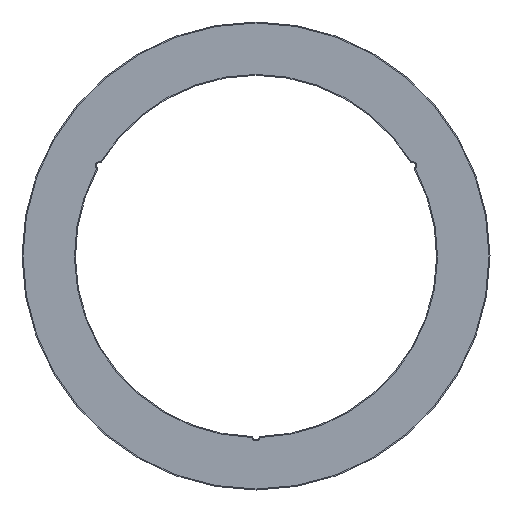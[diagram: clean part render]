
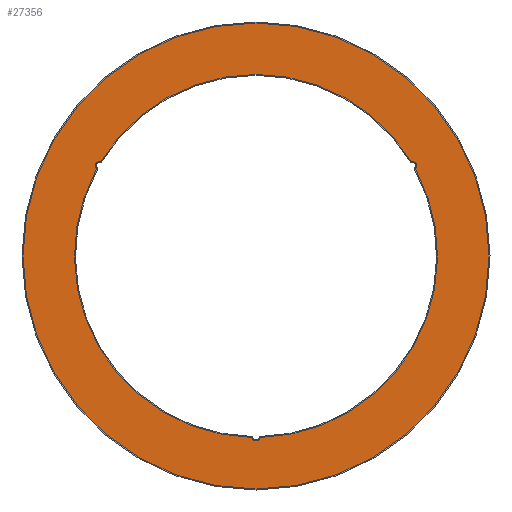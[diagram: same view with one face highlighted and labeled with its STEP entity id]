
A CAD part, front view. The second image highlights one B-rep face of the part: STEP entity #27356.
In plain terms, the highlighted planar face has unit normal (0, -1, 0).
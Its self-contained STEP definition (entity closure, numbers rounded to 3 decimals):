
#921 = CIRCLE ( 'NONE', #52356, 0.65 ) ;
#1262 = DIRECTION ( 'NONE',  ( 0., -1., 0. ) ) ;
#1302 = CARTESIAN_POINT ( 'NONE',  ( -24.249, -0.035, 14. ) ) ;
#2057 = DIRECTION ( 'NONE',  ( 0., 0., -1. ) ) ;
#2355 = VERTEX_POINT ( 'NONE', #40181 ) ;
#3402 = CARTESIAN_POINT ( 'NONE',  ( 0., -0.035, 36.125 ) ) ;
#3644 = CARTESIAN_POINT ( 'NONE',  ( 24.249, -0.035, 14. ) ) ;
#7521 = VERTEX_POINT ( 'NONE', #36827 ) ;
#8434 = CARTESIAN_POINT ( 'NONE',  ( 24.055, -0.035, 14.621 ) ) ;
#9013 = DIRECTION ( 'NONE',  ( 0., -1., 0. ) ) ;
#9279 = CARTESIAN_POINT ( 'NONE',  ( 0., -0.035, 0. ) ) ;
#10319 = PLANE ( 'NONE',  #65658 ) ;
#10971 = DIRECTION ( 'NONE',  ( 0., 0., -1. ) ) ;
#11717 = ORIENTED_EDGE ( 'NONE', *, *, #57239, .F. ) ;
#12152 = CARTESIAN_POINT ( 'NONE',  ( 24.689, -0.035, 13.522 ) ) ;
#12451 = CARTESIAN_POINT ( 'NONE',  ( -24.689, -0.035, 13.522 ) ) ;
#12669 = CARTESIAN_POINT ( 'NONE',  ( 0.634, -0.035, -28.143 ) ) ;
#13413 = AXIS2_PLACEMENT_3D ( 'NONE', #27339, #26565, #58292 ) ;
#14638 = DIRECTION ( 'NONE',  ( 0., 0., -1. ) ) ;
#15609 = ORIENTED_EDGE ( 'NONE', *, *, #63971, .F. ) ;
#16294 = CIRCLE ( 'NONE', #58597, 0.65 ) ;
#16306 = AXIS2_PLACEMENT_3D ( 'NONE', #53130, #22232, #28170 ) ;
#18096 = VERTEX_POINT ( 'NONE', #8434 ) ;
#19367 = DIRECTION ( 'NONE',  ( 0., -1., 0. ) ) ;
#19880 = DIRECTION ( 'NONE',  ( 0., 0., -1. ) ) ;
#20565 = DIRECTION ( 'NONE',  ( 0., -1., 0. ) ) ;
#22007 = EDGE_LOOP ( 'NONE', ( #78755, #51140 ) ) ;
#22046 = CIRCLE ( 'NONE', #71016, 0.65 ) ;
#22232 = DIRECTION ( 'NONE',  ( 0., -1., 0. ) ) ;
#22757 = DIRECTION ( 'NONE',  ( 0., -1., 0. ) ) ;
#23298 = ORIENTED_EDGE ( 'NONE', *, *, #43299, .F. ) ;
#23505 = CARTESIAN_POINT ( 'NONE',  ( 0., -0.035, 0. ) ) ;
#24903 = VERTEX_POINT ( 'NONE', #75636 ) ;
#24960 = ORIENTED_EDGE ( 'NONE', *, *, #34827, .F. ) ;
#26565 = DIRECTION ( 'NONE',  ( 0., -1., 0. ) ) ;
#27214 = FACE_BOUND ( 'NONE', #32424, .T. ) ;
#27339 = CARTESIAN_POINT ( 'NONE',  ( 24.249, -0.035, 14. ) ) ;
#27356 = ADVANCED_FACE ( 'NONE', ( #49657, #27214 ), #10319, .T. ) ;
#28170 = DIRECTION ( 'NONE',  ( 0., 0., -1. ) ) ;
#28173 = DIRECTION ( 'NONE',  ( 0., 0., -1. ) ) ;
#28656 = DIRECTION ( 'NONE',  ( 0., -1., 0. ) ) ;
#28671 = EDGE_CURVE ( 'NONE', #7521, #74434, #22046, .T. ) ;
#29184 = EDGE_CURVE ( 'NONE', #62393, #18096, #37247, .T. ) ;
#29655 = VERTEX_POINT ( 'NONE', #12152 ) ;
#32424 = EDGE_LOOP ( 'NONE', ( #11717, #41064, #54153, #64631, #23298, #15609, #73532, #24960, #60145 ) ) ;
#32664 = CARTESIAN_POINT ( 'NONE',  ( 0., -0.035, 0. ) ) ;
#32888 = AXIS2_PLACEMENT_3D ( 'NONE', #39765, #20565, #14638 ) ;
#33732 = AXIS2_PLACEMENT_3D ( 'NONE', #32664, #56602, #57423 ) ;
#33783 = VERTEX_POINT ( 'NONE', #72161 ) ;
#34827 = EDGE_CURVE ( 'NONE', #29655, #62393, #921, .T. ) ;
#36827 = CARTESIAN_POINT ( 'NONE',  ( -24.249, -0.035, 14.65 ) ) ;
#37247 = CIRCLE ( 'NONE', #13413, 0.65 ) ;
#37770 = VERTEX_POINT ( 'NONE', #75627 ) ;
#38564 = DIRECTION ( 'NONE',  ( 0., 0., -1. ) ) ;
#39295 = DIRECTION ( 'NONE',  ( 0., -1., 0. ) ) ;
#39765 = CARTESIAN_POINT ( 'NONE',  ( -24.249, -0.035, 14. ) ) ;
#40181 = CARTESIAN_POINT ( 'NONE',  ( 0., -0.035, -36.125 ) ) ;
#41019 = DIRECTION ( 'NONE',  ( 0., -1., 0. ) ) ;
#41064 = ORIENTED_EDGE ( 'NONE', *, *, #59492, .F. ) ;
#43299 = EDGE_CURVE ( 'NONE', #37770, #33783, #69019, .T. ) ;
#45567 = CIRCLE ( 'NONE', #54012, 36.125 ) ;
#48503 = AXIS2_PLACEMENT_3D ( 'NONE', #23505, #28656, #79973 ) ;
#49657 = FACE_OUTER_BOUND ( 'NONE', #22007, .T. ) ;
#51140 = ORIENTED_EDGE ( 'NONE', *, *, #65440, .T. ) ;
#52356 = AXIS2_PLACEMENT_3D ( 'NONE', #3644, #9013, #28173 ) ;
#53130 = CARTESIAN_POINT ( 'NONE',  ( 0., -0.035, 0. ) ) ;
#53548 = VERTEX_POINT ( 'NONE', #3402 ) ;
#54012 = AXIS2_PLACEMENT_3D ( 'NONE', #9279, #39295, #76538 ) ;
#54153 = ORIENTED_EDGE ( 'NONE', *, *, #28671, .F. ) ;
#56503 = CARTESIAN_POINT ( 'NONE',  ( 0., -0.035, 0. ) ) ;
#56602 = DIRECTION ( 'NONE',  ( 0., -1., 0. ) ) ;
#57239 = EDGE_CURVE ( 'NONE', #24903, #63774, #16294, .T. ) ;
#57423 = DIRECTION ( 'NONE',  ( 0., 0., -1. ) ) ;
#57521 = CIRCLE ( 'NONE', #32888, 0.65 ) ;
#57959 = CIRCLE ( 'NONE', #48503, 36.125 ) ;
#58165 = AXIS2_PLACEMENT_3D ( 'NONE', #69756, #1262, #2057 ) ;
#58292 = DIRECTION ( 'NONE',  ( 0., 0., -1. ) ) ;
#58597 = AXIS2_PLACEMENT_3D ( 'NONE', #78234, #41019, #10971 ) ;
#59492 = EDGE_CURVE ( 'NONE', #74434, #24903, #68844, .T. ) ;
#59929 = CARTESIAN_POINT ( 'NONE',  ( 0., -0.035, 0. ) ) ;
#60145 = ORIENTED_EDGE ( 'NONE', *, *, #74012, .F. ) ;
#60707 = CARTESIAN_POINT ( 'NONE',  ( 24.249, -0.035, 14.65 ) ) ;
#61171 = EDGE_CURVE ( 'NONE', #33783, #7521, #57521, .T. ) ;
#62393 = VERTEX_POINT ( 'NONE', #60707 ) ;
#63774 = VERTEX_POINT ( 'NONE', #12669 ) ;
#63957 = AXIS2_PLACEMENT_3D ( 'NONE', #56503, #19367, #19880 ) ;
#63971 = EDGE_CURVE ( 'NONE', #18096, #37770, #78330, .T. ) ;
#64631 = ORIENTED_EDGE ( 'NONE', *, *, #61171, .F. ) ;
#65440 = EDGE_CURVE ( 'NONE', #2355, #53548, #57959, .T. ) ;
#65658 = AXIS2_PLACEMENT_3D ( 'NONE', #59929, #22757, #72414 ) ;
#68844 = CIRCLE ( 'NONE', #63957, 28.15 ) ;
#69019 = CIRCLE ( 'NONE', #16306, 28.15 ) ;
#69535 = DIRECTION ( 'NONE',  ( 0., -1., 0. ) ) ;
#69756 = CARTESIAN_POINT ( 'NONE',  ( 0., -0.035, 0. ) ) ;
#71016 = AXIS2_PLACEMENT_3D ( 'NONE', #1302, #69535, #38564 ) ;
#71149 = CIRCLE ( 'NONE', #58165, 28.15 ) ;
#72161 = CARTESIAN_POINT ( 'NONE',  ( -24.055, -0.035, 14.621 ) ) ;
#72414 = DIRECTION ( 'NONE',  ( 0., 0., -1. ) ) ;
#73532 = ORIENTED_EDGE ( 'NONE', *, *, #29184, .F. ) ;
#74012 = EDGE_CURVE ( 'NONE', #63774, #29655, #71149, .T. ) ;
#74434 = VERTEX_POINT ( 'NONE', #12451 ) ;
#75627 = CARTESIAN_POINT ( 'NONE',  ( 0., -0.035, 28.15 ) ) ;
#75636 = CARTESIAN_POINT ( 'NONE',  ( -0.634, -0.035, -28.143 ) ) ;
#76538 = DIRECTION ( 'NONE',  ( 0., 0., -1. ) ) ;
#78063 = EDGE_CURVE ( 'NONE', #53548, #2355, #45567, .T. ) ;
#78234 = CARTESIAN_POINT ( 'NONE',  ( 0., -0.035, -28. ) ) ;
#78330 = CIRCLE ( 'NONE', #33732, 28.15 ) ;
#78755 = ORIENTED_EDGE ( 'NONE', *, *, #78063, .T. ) ;
#79973 = DIRECTION ( 'NONE',  ( 0., 0., -1. ) ) ;
